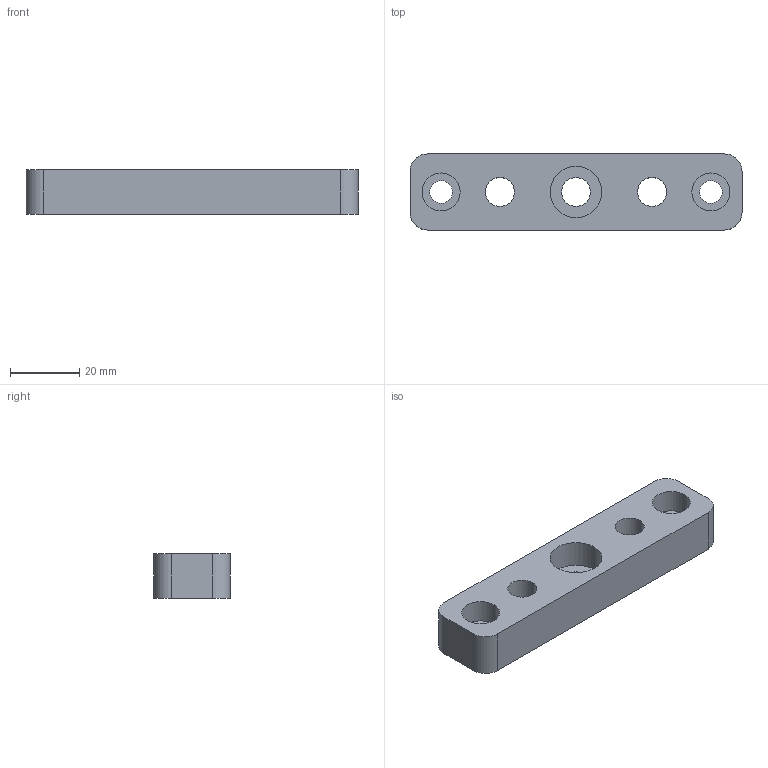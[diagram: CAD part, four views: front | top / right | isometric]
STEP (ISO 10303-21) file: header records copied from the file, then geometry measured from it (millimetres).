
FILE_DESCRIPTION (( 'STEP AP214' ), '1' );
FILE_NAME ('GZ29.07_V1弹簧移动板.STEP', '2021-05-07T05:50:16', ( '微软中国' ), ( 'Microsoft' ), 'SwSTEP 2.0', 'SolidWorks 2017', '' );
FILE_SCHEMA (( 'AUTOMOTIVE_DESIGN' ));
Length unit declared in the file: millimetre
Products named in the file (1): GZ29.07_V1粟銅痄雄啣
Bounding box: 96 x 22 x 13 mm (x, y, z)
Volume: 22091.9 mm3; surface area: 8645.3 mm2
Topology: 1 solids, 1 shells, 38 faces, 90 edges, 60 vertices
Faces by surface type: cylinder 26, plane 12
Entity records: 1180 total; most frequent: DIRECTION 220, CARTESIAN_POINT 189, ORIENTED_EDGE 180, AXIS2_PLACEMENT_3D 91, EDGE_CURVE 90, VERTEX_POINT 60, EDGE_LOOP 54, CIRCLE 52
